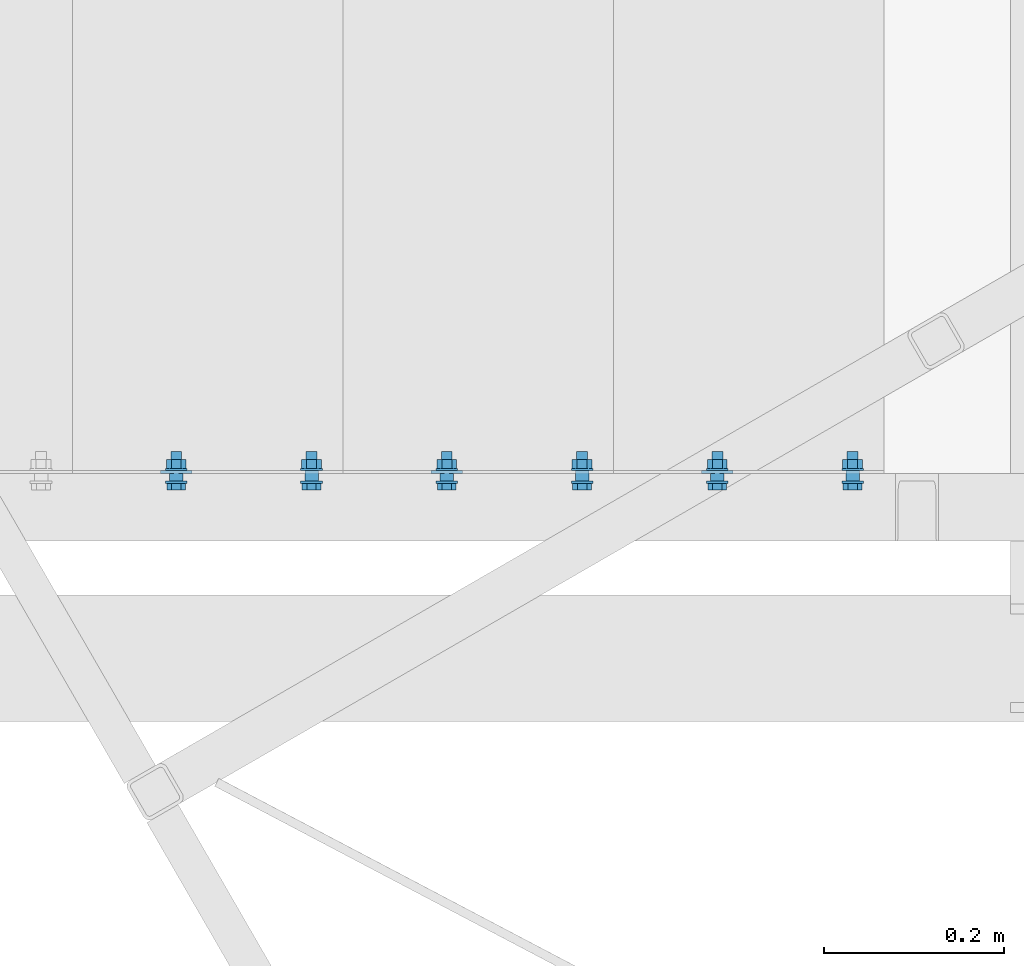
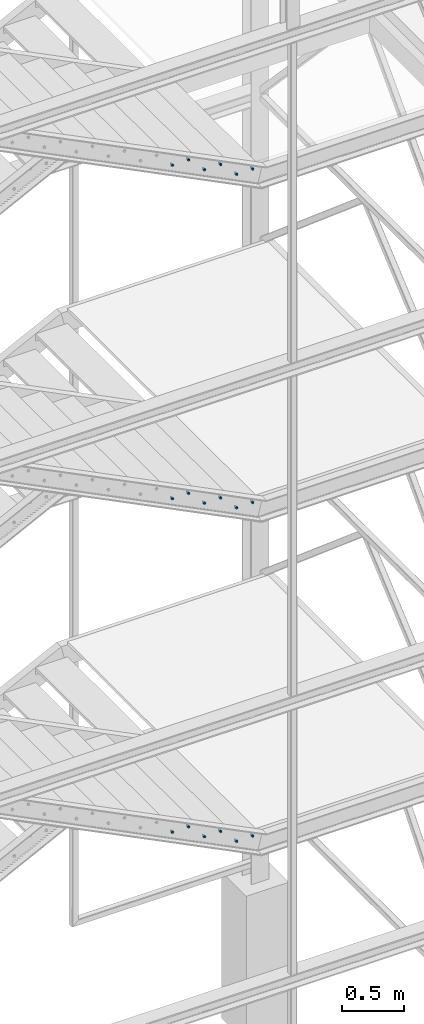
# One storey, part 107 of 132: 18 mechanical fasteners, 9 elements without a shape of their own.
"""IFC2X3 building model written with IfcOpenShell, lengths in millimetres."""

from ifc_helpers import new_model, si_unit, frame, frame_2d, origin_with_axes, origin_2d_with_axis, place, context, subcontext, project, spatial, polyline, circle_curve, parameter, trimmed, segment, composite_curve, circle, outline, extrude, source, transform, mapped, material, type_object, element, aggregate, save


model = new_model("IFC2X3")

# Units and contexts
model_context = context("Model", 3, precision=1e-05, world=origin_with_axes())
body_context = subcontext(model_context, "Body", "Model", "MODEL_VIEW")
ifc_project = project(units=[si_unit("LENGTHUNIT", "METRE", prefix="MILLI"), si_unit("AREAUNIT", "SQUARE_METRE"), si_unit("VOLUMEUNIT", "CUBIC_METRE"), si_unit("MASSUNIT", "GRAM", prefix="KILO"), si_unit("TIMEUNIT", "SECOND"), si_unit("PLANEANGLEUNIT", "RADIAN"), si_unit("SOLIDANGLEUNIT", "STERADIAN"), si_unit("THERMODYNAMICTEMPERATUREUNIT", "DEGREE_CELSIUS"), si_unit("LUMINOUSINTENSITYUNIT", "LUMEN")], contexts=[model_context])

# Site, building, storey
site_placement = place(None, origin_with_axes())
site = spatial("IfcSite", under=ifc_project, at=site_placement, Name="Budowa", CompositionType="ELEMENT")
building_placement = place(site_placement, origin_with_axes())
building = spatial("IfcBuilding", under=site, at=building_placement, Name="Undefined", CompositionType="ELEMENT")
storey_placement = place(building_placement, origin_with_axes())
storey = spatial("IfcBuildingStorey", under=building, at=storey_placement, Name="Undefined", CompositionType="ELEMENT", Elevation=0.0)

# Assembly, mechanical fastener
assembly_1_placement = place(storey_placement, origin_with_axes())
assembly_1 = element("IfcElementAssembly", 1, at=assembly_1_placement, inside=storey, Name="Steel Assembly", AssemblyPlace="NOTDEFINED", PredefinedType="RIGID_FRAME")
ifc_material = material(Name="Undefined")
discrete_accessory_type = type_object("IfcDiscreteAccessoryType", Name="Bolt assembly")
shared_shape_1 = source(origin_with_axes(), body_context, "Body", "SweptSolid", [
    extrude(circle(Radius=7.5, at=origin_2d_with_axis()), frame((0.0, -8.40000000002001, 0.0), z_axis=(0.0, 1.0, 0.0), x_axis=(1.0, 0.0, 0.0)), (0.0, 0.0, 1.0), 8.5),
    extrude(circle(Radius=7.5, at=origin_2d_with_axis()), frame((0.0, -0.1, 0.0), z_axis=(0.0, 1.0, 0.0), x_axis=(1.0, 0.0, 0.0)), (0.0, 0.0, 1.0), 3.1),
    extrude(outline(polyline([(10.39230484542, 0.0), (5.19615242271, 9.00000000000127), (-5.19615242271, 9.00000000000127), (-10.39230484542, 0.0), (-5.19615242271, -9.00000000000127), (5.19615242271, -9.00000000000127), (10.39230484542, 0.0)])), frame((0.0, -18.50000000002, 0.0), z_axis=(0.0, 1.0, 0.0), x_axis=(1.0, 0.0, 0.0)), (0.0, 0.0, 1.0), 7.5),
    extrude(circle(Radius=6.0, at=origin_2d_with_axis()), frame((0.0, -11.00000000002, 0.0), z_axis=(0.0, 1.0, 0.0), x_axis=(1.0, 0.0, 0.0)), (0.0, 0.0, 1.0), 35.0),
    extrude(circle(Radius=12.0, at=origin_2d_with_axis()), frame((0.0, -11.00000000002, 0.0), z_axis=(0.0, 1.0, 0.0), x_axis=(1.0, 0.0, 0.0)), (0.0, 0.0, 1.0), 2.5),
    extrude(circle(Radius=12.0, at=origin_2d_with_axis()), frame((0.0, 3.0, 0.0), z_axis=(0.0, 1.0, 0.0), x_axis=(1.0, 0.0, 0.0)), (0.0, 0.0, 1.0), 2.5),
    extrude(outline(polyline([(10.96965511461, 0.0), (5.484827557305, 9.50000000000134), (-5.484827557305, 9.50000000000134), (-10.96965511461, 0.0), (-5.484827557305, -9.50000000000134), (5.484827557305, -9.50000000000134), (10.96965511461, 0.0)])), frame((0.0, 5.5, 0.0), z_axis=(0.0, 1.0, 0.0), x_axis=(1.0, 0.0, 0.0)), (0.0, 0.0, 1.0), 10.0),
])
mechanical_fastener_1_placement = place(assembly_1_placement, frame((-1420.00000007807, 7875.00000004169, 11000.0000000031), z_axis=(0.0, 0.0, -1.0), x_axis=(-1.0, 0.0, 0.0)))
mechanical_fastener_1 = element("IfcMechanicalFastener", 2, at=mechanical_fastener_1_placement, type_object=discrete_accessory_type, material=ifc_material, Name="Bolt assembly", NominalDiameter=12.0, NominalLength=35.0, context=body_context, shape_type="MappedRepresentation", body=[
    mapped(shared_shape_1, transform((35.0, 0.0, 25.0))),
])

assembly_2_placement = place(storey_placement, origin_with_axes())
assembly_2 = element("IfcElementAssembly", 3, at=assembly_2_placement, inside=storey, Name="Steel Assembly", AssemblyPlace="NOTDEFINED", PredefinedType="RIGID_FRAME")
mechanical_fastener_2_placement = place(assembly_2_placement, frame((-1120.00000007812, 7875.00000004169, 10850.0000000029), z_axis=(0.0, 0.0, -1.0), x_axis=(-1.0, 0.0, 0.0)))
mechanical_fastener_2 = element("IfcMechanicalFastener", 4, at=mechanical_fastener_2_placement, type_object=discrete_accessory_type, material=ifc_material, Name="Bolt assembly", NominalDiameter=12.0, NominalLength=35.0, context=body_context, shape_type="MappedRepresentation", body=[
    mapped(shared_shape_1, transform((35.0, 0.0, 25.0))),
])

assembly_3_placement = place(storey_placement, origin_with_axes())
assembly_3 = element("IfcElementAssembly", 5, at=assembly_3_placement, inside=storey, Name="Steel Assembly", AssemblyPlace="NOTDEFINED", PredefinedType="RIGID_FRAME")
mechanical_fastener_3_placement = place(assembly_3_placement, frame((-820.000000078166, 7875.00000004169, 10700.0000000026), z_axis=(0.0, 0.0, -1.0), x_axis=(-1.0, 0.0, 0.0)))
mechanical_fastener_3 = element("IfcMechanicalFastener", 6, at=mechanical_fastener_3_placement, type_object=discrete_accessory_type, material=ifc_material, Name="Bolt assembly", NominalDiameter=12.0, NominalLength=35.0, context=body_context, shape_type="MappedRepresentation", body=[
    mapped(shared_shape_1, transform((35.0, 0.0, 25.0))),
])

assembly_4_placement = place(storey_placement, origin_with_axes())
assembly_4 = element("IfcElementAssembly", 7, at=assembly_4_placement, inside=storey, Name="Steel Assembly", AssemblyPlace="NOTDEFINED", PredefinedType="RIGID_FRAME")
mechanical_fastener_4_placement = place(assembly_4_placement, frame((-1420.00000007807, 7875.00000004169, 7700.00000000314), z_axis=(0.0, 0.0, -1.0), x_axis=(-1.0, 0.0, 0.0)))
mechanical_fastener_4 = element("IfcMechanicalFastener", 8, at=mechanical_fastener_4_placement, type_object=discrete_accessory_type, material=ifc_material, Name="Bolt assembly", NominalDiameter=12.0, NominalLength=35.0, context=body_context, shape_type="MappedRepresentation", body=[
    mapped(shared_shape_1, transform((35.0, 0.0, 25.0))),
])

assembly_5_placement = place(storey_placement, origin_with_axes())
assembly_5 = element("IfcElementAssembly", 9, at=assembly_5_placement, inside=storey, Name="Steel Assembly", AssemblyPlace="NOTDEFINED", PredefinedType="RIGID_FRAME")
mechanical_fastener_5_placement = place(assembly_5_placement, frame((-1120.00000007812, 7875.00000004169, 7550.00000000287), z_axis=(0.0, 0.0, -1.0), x_axis=(-1.0, 0.0, 0.0)))
mechanical_fastener_5 = element("IfcMechanicalFastener", 10, at=mechanical_fastener_5_placement, type_object=discrete_accessory_type, material=ifc_material, Name="Bolt assembly", NominalDiameter=12.0, NominalLength=35.0, context=body_context, shape_type="MappedRepresentation", body=[
    mapped(shared_shape_1, transform((35.0, 0.0, 25.0))),
])

assembly_6_placement = place(storey_placement, origin_with_axes())
assembly_6 = element("IfcElementAssembly", 11, at=assembly_6_placement, inside=storey, Name="Steel Assembly", AssemblyPlace="NOTDEFINED", PredefinedType="RIGID_FRAME")
mechanical_fastener_6_placement = place(assembly_6_placement, frame((-820.000000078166, 7875.00000004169, 7400.00000000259), z_axis=(0.0, 0.0, -1.0), x_axis=(-1.0, 0.0, 0.0)))
mechanical_fastener_6 = element("IfcMechanicalFastener", 12, at=mechanical_fastener_6_placement, type_object=discrete_accessory_type, material=ifc_material, Name="Bolt assembly", NominalDiameter=12.0, NominalLength=35.0, context=body_context, shape_type="MappedRepresentation", body=[
    mapped(shared_shape_1, transform((35.0, 0.0, 25.0))),
])

assembly_7_placement = place(storey_placement, origin_with_axes())
assembly_7 = element("IfcElementAssembly", 13, at=assembly_7_placement, inside=storey, Name="Steel Assembly", AssemblyPlace="NOTDEFINED", PredefinedType="RIGID_FRAME")
mechanical_fastener_7_placement = place(assembly_7_placement, frame((-1420.00000007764, 7875.00000004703, 4399.99999999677), z_axis=(0.0, 0.0, -1.0), x_axis=(-1.0, 0.0, 0.0)))
mechanical_fastener_7 = element("IfcMechanicalFastener", 14, at=mechanical_fastener_7_placement, type_object=discrete_accessory_type, material=ifc_material, Name="Bolt assembly", NominalDiameter=12.0, NominalLength=35.0, context=body_context, shape_type="MappedRepresentation", body=[
    mapped(shared_shape_1, transform((35.0, 0.0, 25.0))),
])

assembly_8_placement = place(storey_placement, origin_with_axes())
assembly_8 = element("IfcElementAssembly", 15, at=assembly_8_placement, inside=storey, Name="Steel Assembly", AssemblyPlace="NOTDEFINED", PredefinedType="RIGID_FRAME")
mechanical_fastener_8_placement = place(assembly_8_placement, frame((-1120.00000007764, 7875.00000004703, 4249.99999999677), z_axis=(0.0, 0.0, -1.0), x_axis=(-1.0, 0.0, 0.0)))
mechanical_fastener_8 = element("IfcMechanicalFastener", 16, at=mechanical_fastener_8_placement, type_object=discrete_accessory_type, material=ifc_material, Name="Bolt assembly", NominalDiameter=12.0, NominalLength=35.0, context=body_context, shape_type="MappedRepresentation", body=[
    mapped(shared_shape_1, transform((35.0, 0.0, 25.0))),
])

assembly_9_placement = place(storey_placement, origin_with_axes())
assembly_9 = element("IfcElementAssembly", 17, at=assembly_9_placement, inside=storey, Name="Steel Assembly", AssemblyPlace="NOTDEFINED", PredefinedType="RIGID_FRAME")
mechanical_fastener_9_placement = place(assembly_9_placement, frame((-820.000000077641, 7875.00000004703, 4099.99999999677), z_axis=(0.0, 0.0, -1.0), x_axis=(-1.0, 0.0, 0.0)))
mechanical_fastener_9 = element("IfcMechanicalFastener", 18, at=mechanical_fastener_9_placement, type_object=discrete_accessory_type, material=ifc_material, Name="Bolt assembly", NominalDiameter=12.0, NominalLength=35.0, context=body_context, shape_type="MappedRepresentation", body=[
    mapped(shared_shape_1, transform((35.0, 0.0, 25.0))),
])

# Mechanical fastener
shared_shape_2 = source(origin_with_axes(), body_context, "Body", "SweptSolid", [
    extrude(circle(Radius=7.5, at=origin_2d_with_axis()), frame((0.0, -8.40000000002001, 0.0), z_axis=(0.0, 1.0, 0.0), x_axis=(1.0, 0.0, 0.0)), (0.0, 0.0, 1.0), 8.5),
    extrude(outline(composite_curve([segment(polyline([(-10.0, 7.5), (10.0, 7.5)]), True, "CONTINUOUS"), segment(trimmed(circle_curve(frame_2d((10.0, 0.0), x_axis=(0.0, 1.0)), 7.5), [parameter(0.0)], [parameter(3.14159265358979)], False, "PARAMETER"), True, "CONTINUOUS"), segment(polyline([(10.0, -7.5), (-10.0, -7.5)]), True, "CONTINUOUS"), segment(trimmed(circle_curve(frame_2d((-10.0, 0.0), x_axis=(0.0, -1.0)), 7.5), [parameter(0.0)], [parameter(3.14159265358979)], False, "PARAMETER"), True, "DISCONTINUOUS")], self_intersect=False)), frame((0.0, -0.1, 0.0), z_axis=(0.0, 1.0, 0.0), x_axis=(1.0, 0.0, 0.0)), (0.0, 0.0, 1.0), 3.1),
    extrude(outline(polyline([(10.39230484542, 0.0), (5.19615242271, 9.00000000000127), (-5.19615242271, 9.00000000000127), (-10.39230484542, 0.0), (-5.19615242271, -9.00000000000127), (5.19615242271, -9.00000000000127), (10.39230484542, 0.0)])), frame((0.0, -18.50000000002, 0.0), z_axis=(0.0, 1.0, 0.0), x_axis=(1.0, 0.0, 0.0)), (0.0, 0.0, 1.0), 7.5),
    extrude(circle(Radius=6.0, at=origin_2d_with_axis()), frame((0.0, -11.00000000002, 0.0), z_axis=(0.0, 1.0, 0.0), x_axis=(1.0, 0.0, 0.0)), (0.0, 0.0, 1.0), 35.0),
    extrude(circle(Radius=12.0, at=origin_2d_with_axis()), frame((0.0, -11.00000000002, 0.0), z_axis=(0.0, 1.0, 0.0), x_axis=(1.0, 0.0, 0.0)), (0.0, 0.0, 1.0), 2.5),
    extrude(circle(Radius=12.0, at=origin_2d_with_axis()), frame((0.0, 3.0, 0.0), z_axis=(0.0, 1.0, 0.0), x_axis=(1.0, 0.0, 0.0)), (0.0, 0.0, 1.0), 2.5),
    extrude(outline(polyline([(10.96965511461, 0.0), (5.484827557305, 9.50000000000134), (-5.484827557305, 9.50000000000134), (-10.96965511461, 0.0), (-5.484827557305, -9.50000000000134), (5.484827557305, -9.50000000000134), (10.96965511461, 0.0)])), frame((0.0, 5.5, 0.0), z_axis=(0.0, 1.0, 0.0), x_axis=(1.0, 0.0, 0.0)), (0.0, 0.0, 1.0), 10.0),
])
mechanical_fastener_10_placement = place(assembly_1_placement, frame((-1420.00000007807, 7875.00000004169, 11000.0000000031), z_axis=(0.0, 0.0, -1.0), x_axis=(-1.0, 0.0, 0.0)))
mechanical_fastener_10 = element("IfcMechanicalFastener", 19, at=mechanical_fastener_10_placement, type_object=discrete_accessory_type, material=ifc_material, Name="Bolt assembly", NominalDiameter=12.0, NominalLength=35.0, context=body_context, shape_type="MappedRepresentation", body=[
    mapped(shared_shape_2, transform((185.0, 0.0, 25.0))),
])

aggregate(assembly_1, [mechanical_fastener_10, mechanical_fastener_1])

shared_shape_3 = source(origin_with_axes(), body_context, "Body", "SweptSolid", [
    extrude(circle(Radius=7.5, at=origin_2d_with_axis()), frame((0.0, -8.40000000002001, 0.0), z_axis=(0.0, 1.0, 0.0), x_axis=(1.0, 0.0, 0.0)), (0.0, 0.0, 1.0), 8.5),
    extrude(outline(composite_curve([segment(polyline([(-10.0, 7.5), (10.0, 7.5)]), True, "CONTINUOUS"), segment(trimmed(circle_curve(frame_2d((10.0, 0.0), x_axis=(0.0, 1.0)), 7.5), [parameter(0.0)], [parameter(3.14159265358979)], False, "PARAMETER"), True, "CONTINUOUS"), segment(polyline([(10.0, -7.5), (-10.0, -7.5)]), True, "CONTINUOUS"), segment(trimmed(circle_curve(frame_2d((-10.0, 0.0), x_axis=(0.0, -1.0)), 7.5), [parameter(0.0)], [parameter(3.14159265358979)], False, "PARAMETER"), True, "DISCONTINUOUS")], self_intersect=False)), frame((0.0, -0.1, 0.0), z_axis=(0.0, 1.0, 0.0), x_axis=(1.0, 0.0, 0.0)), (0.0, 0.0, 1.0), 3.1),
    extrude(outline(polyline([(10.39230484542, 0.0), (5.19615242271, 9.00000000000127), (-5.19615242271, 9.00000000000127), (-10.39230484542, 0.0), (-5.19615242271, -9.00000000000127), (5.19615242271, -9.00000000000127), (10.39230484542, 0.0)])), frame((0.0, -18.50000000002, 0.0), z_axis=(0.0, 1.0, 0.0), x_axis=(1.0, 0.0, 0.0)), (0.0, 0.0, 1.0), 7.5),
    extrude(circle(Radius=6.0, at=origin_2d_with_axis()), frame((0.0, -11.00000000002, 0.0), z_axis=(0.0, 1.0, 0.0), x_axis=(1.0, 0.0, 0.0)), (0.0, 0.0, 1.0), 35.0),
    extrude(circle(Radius=12.0, at=origin_2d_with_axis()), frame((0.0, -11.00000000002, 0.0), z_axis=(0.0, 1.0, 0.0), x_axis=(1.0, 0.0, 0.0)), (0.0, 0.0, 1.0), 2.5),
    extrude(circle(Radius=12.0, at=origin_2d_with_axis()), frame((0.0, 3.0, 0.0), z_axis=(0.0, 1.0, 0.0), x_axis=(1.0, 0.0, 0.0)), (0.0, 0.0, 1.0), 2.5),
    extrude(outline(polyline([(10.96965511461, 0.0), (5.484827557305, 9.50000000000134), (-5.484827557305, 9.50000000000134), (-10.96965511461, 0.0), (-5.484827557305, -9.50000000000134), (5.484827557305, -9.50000000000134), (10.96965511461, 0.0)])), frame((0.0, 5.5, 0.0), z_axis=(0.0, 1.0, 0.0), x_axis=(1.0, 0.0, 0.0)), (0.0, 0.0, 1.0), 10.0),
])
mechanical_fastener_11_placement = place(assembly_2_placement, frame((-1120.00000007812, 7875.00000004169, 10850.0000000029), z_axis=(0.0, 0.0, -1.0), x_axis=(-1.0, 0.0, 0.0)))
mechanical_fastener_11 = element("IfcMechanicalFastener", 20, at=mechanical_fastener_11_placement, type_object=discrete_accessory_type, material=ifc_material, Name="Bolt assembly", NominalDiameter=12.0, NominalLength=35.0, context=body_context, shape_type="MappedRepresentation", body=[
    mapped(shared_shape_3, transform((185.0, 0.0, 25.0))),
])

aggregate(assembly_2, [mechanical_fastener_11, mechanical_fastener_2])

shared_shape_4 = source(origin_with_axes(), body_context, "Body", "SweptSolid", [
    extrude(circle(Radius=7.5, at=origin_2d_with_axis()), frame((0.0, -8.40000000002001, 0.0), z_axis=(0.0, 1.0, 0.0), x_axis=(1.0, 0.0, 0.0)), (0.0, 0.0, 1.0), 8.5),
    extrude(outline(composite_curve([segment(polyline([(-10.0, 7.5), (10.0, 7.5)]), True, "CONTINUOUS"), segment(trimmed(circle_curve(frame_2d((10.0, 0.0), x_axis=(0.0, 1.0)), 7.5), [parameter(0.0)], [parameter(3.14159265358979)], False, "PARAMETER"), True, "CONTINUOUS"), segment(polyline([(10.0, -7.5), (-10.0, -7.5)]), True, "CONTINUOUS"), segment(trimmed(circle_curve(frame_2d((-10.0, 0.0), x_axis=(0.0, -1.0)), 7.5), [parameter(0.0)], [parameter(3.14159265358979)], False, "PARAMETER"), True, "DISCONTINUOUS")], self_intersect=False)), frame((0.0, -0.1, 0.0), z_axis=(0.0, 1.0, 0.0), x_axis=(1.0, 0.0, 0.0)), (0.0, 0.0, 1.0), 3.1),
    extrude(outline(polyline([(10.39230484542, 0.0), (5.19615242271, 9.00000000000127), (-5.19615242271, 9.00000000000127), (-10.39230484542, 0.0), (-5.19615242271, -9.00000000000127), (5.19615242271, -9.00000000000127), (10.39230484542, 0.0)])), frame((0.0, -18.50000000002, 0.0), z_axis=(0.0, 1.0, 0.0), x_axis=(1.0, 0.0, 0.0)), (0.0, 0.0, 1.0), 7.5),
    extrude(circle(Radius=6.0, at=origin_2d_with_axis()), frame((0.0, -11.00000000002, 0.0), z_axis=(0.0, 1.0, 0.0), x_axis=(1.0, 0.0, 0.0)), (0.0, 0.0, 1.0), 35.0),
    extrude(circle(Radius=12.0, at=origin_2d_with_axis()), frame((0.0, -11.00000000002, 0.0), z_axis=(0.0, 1.0, 0.0), x_axis=(1.0, 0.0, 0.0)), (0.0, 0.0, 1.0), 2.5),
    extrude(circle(Radius=12.0, at=origin_2d_with_axis()), frame((0.0, 3.0, 0.0), z_axis=(0.0, 1.0, 0.0), x_axis=(1.0, 0.0, 0.0)), (0.0, 0.0, 1.0), 2.5),
    extrude(outline(polyline([(10.96965511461, 0.0), (5.484827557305, 9.50000000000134), (-5.484827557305, 9.50000000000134), (-10.96965511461, 0.0), (-5.484827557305, -9.50000000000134), (5.484827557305, -9.50000000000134), (10.96965511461, 0.0)])), frame((0.0, 5.5, 0.0), z_axis=(0.0, 1.0, 0.0), x_axis=(1.0, 0.0, 0.0)), (0.0, 0.0, 1.0), 10.0),
])
mechanical_fastener_12_placement = place(assembly_3_placement, frame((-820.000000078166, 7875.00000004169, 10700.0000000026), z_axis=(0.0, 0.0, -1.0), x_axis=(-1.0, 0.0, 0.0)))
mechanical_fastener_12 = element("IfcMechanicalFastener", 21, at=mechanical_fastener_12_placement, type_object=discrete_accessory_type, material=ifc_material, Name="Bolt assembly", NominalDiameter=12.0, NominalLength=35.0, context=body_context, shape_type="MappedRepresentation", body=[
    mapped(shared_shape_4, transform((185.0, 0.0, 25.0))),
])

aggregate(assembly_3, [mechanical_fastener_12, mechanical_fastener_3])

shared_shape_5 = source(origin_with_axes(), body_context, "Body", "SweptSolid", [
    extrude(circle(Radius=7.5, at=origin_2d_with_axis()), frame((0.0, -8.40000000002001, 0.0), z_axis=(0.0, 1.0, 0.0), x_axis=(1.0, 0.0, 0.0)), (0.0, 0.0, 1.0), 8.5),
    extrude(outline(composite_curve([segment(polyline([(-10.0, 7.5), (10.0, 7.5)]), True, "CONTINUOUS"), segment(trimmed(circle_curve(frame_2d((10.0, 0.0), x_axis=(0.0, 1.0)), 7.5), [parameter(0.0)], [parameter(3.14159265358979)], False, "PARAMETER"), True, "CONTINUOUS"), segment(polyline([(10.0, -7.5), (-10.0, -7.5)]), True, "CONTINUOUS"), segment(trimmed(circle_curve(frame_2d((-10.0, 0.0), x_axis=(0.0, -1.0)), 7.5), [parameter(0.0)], [parameter(3.14159265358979)], False, "PARAMETER"), True, "DISCONTINUOUS")], self_intersect=False)), frame((0.0, -0.1, 0.0), z_axis=(0.0, 1.0, 0.0), x_axis=(1.0, 0.0, 0.0)), (0.0, 0.0, 1.0), 3.1),
    extrude(outline(polyline([(10.39230484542, 0.0), (5.19615242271, 9.00000000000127), (-5.19615242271, 9.00000000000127), (-10.39230484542, 0.0), (-5.19615242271, -9.00000000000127), (5.19615242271, -9.00000000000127), (10.39230484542, 0.0)])), frame((0.0, -18.50000000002, 0.0), z_axis=(0.0, 1.0, 0.0), x_axis=(1.0, 0.0, 0.0)), (0.0, 0.0, 1.0), 7.5),
    extrude(circle(Radius=6.0, at=origin_2d_with_axis()), frame((0.0, -11.00000000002, 0.0), z_axis=(0.0, 1.0, 0.0), x_axis=(1.0, 0.0, 0.0)), (0.0, 0.0, 1.0), 35.0),
    extrude(circle(Radius=12.0, at=origin_2d_with_axis()), frame((0.0, -11.00000000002, 0.0), z_axis=(0.0, 1.0, 0.0), x_axis=(1.0, 0.0, 0.0)), (0.0, 0.0, 1.0), 2.5),
    extrude(circle(Radius=12.0, at=origin_2d_with_axis()), frame((0.0, 3.0, 0.0), z_axis=(0.0, 1.0, 0.0), x_axis=(1.0, 0.0, 0.0)), (0.0, 0.0, 1.0), 2.5),
    extrude(outline(polyline([(10.96965511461, 0.0), (5.484827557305, 9.50000000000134), (-5.484827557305, 9.50000000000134), (-10.96965511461, 0.0), (-5.484827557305, -9.50000000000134), (5.484827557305, -9.50000000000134), (10.96965511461, 0.0)])), frame((0.0, 5.5, 0.0), z_axis=(0.0, 1.0, 0.0), x_axis=(1.0, 0.0, 0.0)), (0.0, 0.0, 1.0), 10.0),
])
mechanical_fastener_13_placement = place(assembly_4_placement, frame((-1420.00000007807, 7875.00000004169, 7700.00000000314), z_axis=(0.0, 0.0, -1.0), x_axis=(-1.0, 0.0, 0.0)))
mechanical_fastener_13 = element("IfcMechanicalFastener", 22, at=mechanical_fastener_13_placement, type_object=discrete_accessory_type, material=ifc_material, Name="Bolt assembly", NominalDiameter=12.0, NominalLength=35.0, context=body_context, shape_type="MappedRepresentation", body=[
    mapped(shared_shape_5, transform((185.0, 0.0, 25.0))),
])

aggregate(assembly_4, [mechanical_fastener_13, mechanical_fastener_4])

shared_shape_6 = source(origin_with_axes(), body_context, "Body", "SweptSolid", [
    extrude(circle(Radius=7.5, at=origin_2d_with_axis()), frame((0.0, -8.40000000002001, 0.0), z_axis=(0.0, 1.0, 0.0), x_axis=(1.0, 0.0, 0.0)), (0.0, 0.0, 1.0), 8.5),
    extrude(outline(composite_curve([segment(polyline([(-10.0, 7.5), (10.0, 7.5)]), True, "CONTINUOUS"), segment(trimmed(circle_curve(frame_2d((10.0, 0.0), x_axis=(0.0, 1.0)), 7.5), [parameter(0.0)], [parameter(3.14159265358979)], False, "PARAMETER"), True, "CONTINUOUS"), segment(polyline([(10.0, -7.5), (-10.0, -7.5)]), True, "CONTINUOUS"), segment(trimmed(circle_curve(frame_2d((-10.0, 0.0), x_axis=(0.0, -1.0)), 7.5), [parameter(0.0)], [parameter(3.14159265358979)], False, "PARAMETER"), True, "DISCONTINUOUS")], self_intersect=False)), frame((0.0, -0.1, 0.0), z_axis=(0.0, 1.0, 0.0), x_axis=(1.0, 0.0, 0.0)), (0.0, 0.0, 1.0), 3.1),
    extrude(outline(polyline([(10.39230484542, 0.0), (5.19615242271, 9.00000000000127), (-5.19615242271, 9.00000000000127), (-10.39230484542, 0.0), (-5.19615242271, -9.00000000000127), (5.19615242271, -9.00000000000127), (10.39230484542, 0.0)])), frame((0.0, -18.50000000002, 0.0), z_axis=(0.0, 1.0, 0.0), x_axis=(1.0, 0.0, 0.0)), (0.0, 0.0, 1.0), 7.5),
    extrude(circle(Radius=6.0, at=origin_2d_with_axis()), frame((0.0, -11.00000000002, 0.0), z_axis=(0.0, 1.0, 0.0), x_axis=(1.0, 0.0, 0.0)), (0.0, 0.0, 1.0), 35.0),
    extrude(circle(Radius=12.0, at=origin_2d_with_axis()), frame((0.0, -11.00000000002, 0.0), z_axis=(0.0, 1.0, 0.0), x_axis=(1.0, 0.0, 0.0)), (0.0, 0.0, 1.0), 2.5),
    extrude(circle(Radius=12.0, at=origin_2d_with_axis()), frame((0.0, 3.0, 0.0), z_axis=(0.0, 1.0, 0.0), x_axis=(1.0, 0.0, 0.0)), (0.0, 0.0, 1.0), 2.5),
    extrude(outline(polyline([(10.96965511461, 0.0), (5.484827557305, 9.50000000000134), (-5.484827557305, 9.50000000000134), (-10.96965511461, 0.0), (-5.484827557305, -9.50000000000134), (5.484827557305, -9.50000000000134), (10.96965511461, 0.0)])), frame((0.0, 5.5, 0.0), z_axis=(0.0, 1.0, 0.0), x_axis=(1.0, 0.0, 0.0)), (0.0, 0.0, 1.0), 10.0),
])
mechanical_fastener_14_placement = place(assembly_5_placement, frame((-1120.00000007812, 7875.00000004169, 7550.00000000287), z_axis=(0.0, 0.0, -1.0), x_axis=(-1.0, 0.0, 0.0)))
mechanical_fastener_14 = element("IfcMechanicalFastener", 23, at=mechanical_fastener_14_placement, type_object=discrete_accessory_type, material=ifc_material, Name="Bolt assembly", NominalDiameter=12.0, NominalLength=35.0, context=body_context, shape_type="MappedRepresentation", body=[
    mapped(shared_shape_6, transform((185.0, 0.0, 25.0))),
])

aggregate(assembly_5, [mechanical_fastener_14, mechanical_fastener_5])

shared_shape_7 = source(origin_with_axes(), body_context, "Body", "SweptSolid", [
    extrude(circle(Radius=7.5, at=origin_2d_with_axis()), frame((0.0, -8.40000000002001, 0.0), z_axis=(0.0, 1.0, 0.0), x_axis=(1.0, 0.0, 0.0)), (0.0, 0.0, 1.0), 8.5),
    extrude(outline(composite_curve([segment(polyline([(-10.0, 7.5), (10.0, 7.5)]), True, "CONTINUOUS"), segment(trimmed(circle_curve(frame_2d((10.0, 0.0), x_axis=(0.0, 1.0)), 7.5), [parameter(0.0)], [parameter(3.14159265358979)], False, "PARAMETER"), True, "CONTINUOUS"), segment(polyline([(10.0, -7.5), (-10.0, -7.5)]), True, "CONTINUOUS"), segment(trimmed(circle_curve(frame_2d((-10.0, 0.0), x_axis=(0.0, -1.0)), 7.5), [parameter(0.0)], [parameter(3.14159265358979)], False, "PARAMETER"), True, "DISCONTINUOUS")], self_intersect=False)), frame((0.0, -0.1, 0.0), z_axis=(0.0, 1.0, 0.0), x_axis=(1.0, 0.0, 0.0)), (0.0, 0.0, 1.0), 3.1),
    extrude(outline(polyline([(10.39230484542, 0.0), (5.19615242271, 9.00000000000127), (-5.19615242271, 9.00000000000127), (-10.39230484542, 0.0), (-5.19615242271, -9.00000000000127), (5.19615242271, -9.00000000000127), (10.39230484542, 0.0)])), frame((0.0, -18.50000000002, 0.0), z_axis=(0.0, 1.0, 0.0), x_axis=(1.0, 0.0, 0.0)), (0.0, 0.0, 1.0), 7.5),
    extrude(circle(Radius=6.0, at=origin_2d_with_axis()), frame((0.0, -11.00000000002, 0.0), z_axis=(0.0, 1.0, 0.0), x_axis=(1.0, 0.0, 0.0)), (0.0, 0.0, 1.0), 35.0),
    extrude(circle(Radius=12.0, at=origin_2d_with_axis()), frame((0.0, -11.00000000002, 0.0), z_axis=(0.0, 1.0, 0.0), x_axis=(1.0, 0.0, 0.0)), (0.0, 0.0, 1.0), 2.5),
    extrude(circle(Radius=12.0, at=origin_2d_with_axis()), frame((0.0, 3.0, 0.0), z_axis=(0.0, 1.0, 0.0), x_axis=(1.0, 0.0, 0.0)), (0.0, 0.0, 1.0), 2.5),
    extrude(outline(polyline([(10.96965511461, 0.0), (5.484827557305, 9.50000000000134), (-5.484827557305, 9.50000000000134), (-10.96965511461, 0.0), (-5.484827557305, -9.50000000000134), (5.484827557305, -9.50000000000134), (10.96965511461, 0.0)])), frame((0.0, 5.5, 0.0), z_axis=(0.0, 1.0, 0.0), x_axis=(1.0, 0.0, 0.0)), (0.0, 0.0, 1.0), 10.0),
])
mechanical_fastener_15_placement = place(assembly_6_placement, frame((-820.000000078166, 7875.00000004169, 7400.00000000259), z_axis=(0.0, 0.0, -1.0), x_axis=(-1.0, 0.0, 0.0)))
mechanical_fastener_15 = element("IfcMechanicalFastener", 24, at=mechanical_fastener_15_placement, type_object=discrete_accessory_type, material=ifc_material, Name="Bolt assembly", NominalDiameter=12.0, NominalLength=35.0, context=body_context, shape_type="MappedRepresentation", body=[
    mapped(shared_shape_7, transform((185.0, 0.0, 25.0))),
])

aggregate(assembly_6, [mechanical_fastener_15, mechanical_fastener_6])

shared_shape_8 = source(origin_with_axes(), body_context, "Body", "SweptSolid", [
    extrude(circle(Radius=7.5, at=origin_2d_with_axis()), frame((0.0, -8.40000000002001, 0.0), z_axis=(0.0, 1.0, 0.0), x_axis=(1.0, 0.0, 0.0)), (0.0, 0.0, 1.0), 8.5),
    extrude(outline(composite_curve([segment(polyline([(-10.0, 7.5), (10.0, 7.5)]), True, "CONTINUOUS"), segment(trimmed(circle_curve(frame_2d((10.0, 0.0), x_axis=(0.0, 1.0)), 7.5), [parameter(0.0)], [parameter(3.14159265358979)], False, "PARAMETER"), True, "CONTINUOUS"), segment(polyline([(10.0, -7.5), (-10.0, -7.5)]), True, "CONTINUOUS"), segment(trimmed(circle_curve(frame_2d((-10.0, 0.0), x_axis=(0.0, -1.0)), 7.5), [parameter(0.0)], [parameter(3.14159265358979)], False, "PARAMETER"), True, "DISCONTINUOUS")], self_intersect=False)), frame((0.0, -0.1, 0.0), z_axis=(0.0, 1.0, 0.0), x_axis=(1.0, 0.0, 0.0)), (0.0, 0.0, 1.0), 3.1),
    extrude(outline(polyline([(10.39230484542, 0.0), (5.19615242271, 9.00000000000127), (-5.19615242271, 9.00000000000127), (-10.39230484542, 0.0), (-5.19615242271, -9.00000000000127), (5.19615242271, -9.00000000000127), (10.39230484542, 0.0)])), frame((0.0, -18.50000000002, 0.0), z_axis=(0.0, 1.0, 0.0), x_axis=(1.0, 0.0, 0.0)), (0.0, 0.0, 1.0), 7.5),
    extrude(circle(Radius=6.0, at=origin_2d_with_axis()), frame((0.0, -11.00000000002, 0.0), z_axis=(0.0, 1.0, 0.0), x_axis=(1.0, 0.0, 0.0)), (0.0, 0.0, 1.0), 35.0),
    extrude(circle(Radius=12.0, at=origin_2d_with_axis()), frame((0.0, -11.00000000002, 0.0), z_axis=(0.0, 1.0, 0.0), x_axis=(1.0, 0.0, 0.0)), (0.0, 0.0, 1.0), 2.5),
    extrude(circle(Radius=12.0, at=origin_2d_with_axis()), frame((0.0, 3.0, 0.0), z_axis=(0.0, 1.0, 0.0), x_axis=(1.0, 0.0, 0.0)), (0.0, 0.0, 1.0), 2.5),
    extrude(outline(polyline([(10.96965511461, 0.0), (5.484827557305, 9.50000000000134), (-5.484827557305, 9.50000000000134), (-10.96965511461, 0.0), (-5.484827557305, -9.50000000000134), (5.484827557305, -9.50000000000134), (10.96965511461, 0.0)])), frame((0.0, 5.5, 0.0), z_axis=(0.0, 1.0, 0.0), x_axis=(1.0, 0.0, 0.0)), (0.0, 0.0, 1.0), 10.0),
])
mechanical_fastener_16_placement = place(assembly_7_placement, frame((-1420.00000007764, 7875.00000004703, 4399.99999999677), z_axis=(0.0, 0.0, -1.0), x_axis=(-1.0, 0.0, 0.0)))
mechanical_fastener_16 = element("IfcMechanicalFastener", 25, at=mechanical_fastener_16_placement, type_object=discrete_accessory_type, material=ifc_material, Name="Bolt assembly", NominalDiameter=12.0, NominalLength=35.0, context=body_context, shape_type="MappedRepresentation", body=[
    mapped(shared_shape_8, transform((185.0, 0.0, 25.0))),
])

aggregate(assembly_7, [mechanical_fastener_16, mechanical_fastener_7])

shared_shape_9 = source(origin_with_axes(), body_context, "Body", "SweptSolid", [
    extrude(circle(Radius=7.5, at=origin_2d_with_axis()), frame((0.0, -8.40000000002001, 0.0), z_axis=(0.0, 1.0, 0.0), x_axis=(1.0, 0.0, 0.0)), (0.0, 0.0, 1.0), 8.5),
    extrude(outline(composite_curve([segment(polyline([(-10.0, 7.5), (10.0, 7.5)]), True, "CONTINUOUS"), segment(trimmed(circle_curve(frame_2d((10.0, 0.0), x_axis=(0.0, 1.0)), 7.5), [parameter(0.0)], [parameter(3.14159265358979)], False, "PARAMETER"), True, "CONTINUOUS"), segment(polyline([(10.0, -7.5), (-10.0, -7.5)]), True, "CONTINUOUS"), segment(trimmed(circle_curve(frame_2d((-10.0, 0.0), x_axis=(0.0, -1.0)), 7.5), [parameter(0.0)], [parameter(3.14159265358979)], False, "PARAMETER"), True, "DISCONTINUOUS")], self_intersect=False)), frame((0.0, -0.1, 0.0), z_axis=(0.0, 1.0, 0.0), x_axis=(1.0, 0.0, 0.0)), (0.0, 0.0, 1.0), 3.1),
    extrude(outline(polyline([(10.39230484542, 0.0), (5.19615242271, 9.00000000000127), (-5.19615242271, 9.00000000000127), (-10.39230484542, 0.0), (-5.19615242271, -9.00000000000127), (5.19615242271, -9.00000000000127), (10.39230484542, 0.0)])), frame((0.0, -18.50000000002, 0.0), z_axis=(0.0, 1.0, 0.0), x_axis=(1.0, 0.0, 0.0)), (0.0, 0.0, 1.0), 7.5),
    extrude(circle(Radius=6.0, at=origin_2d_with_axis()), frame((0.0, -11.00000000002, 0.0), z_axis=(0.0, 1.0, 0.0), x_axis=(1.0, 0.0, 0.0)), (0.0, 0.0, 1.0), 35.0),
    extrude(circle(Radius=12.0, at=origin_2d_with_axis()), frame((0.0, -11.00000000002, 0.0), z_axis=(0.0, 1.0, 0.0), x_axis=(1.0, 0.0, 0.0)), (0.0, 0.0, 1.0), 2.5),
    extrude(circle(Radius=12.0, at=origin_2d_with_axis()), frame((0.0, 3.0, 0.0), z_axis=(0.0, 1.0, 0.0), x_axis=(1.0, 0.0, 0.0)), (0.0, 0.0, 1.0), 2.5),
    extrude(outline(polyline([(10.96965511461, 0.0), (5.484827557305, 9.50000000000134), (-5.484827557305, 9.50000000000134), (-10.96965511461, 0.0), (-5.484827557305, -9.50000000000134), (5.484827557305, -9.50000000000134), (10.96965511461, 0.0)])), frame((0.0, 5.5, 0.0), z_axis=(0.0, 1.0, 0.0), x_axis=(1.0, 0.0, 0.0)), (0.0, 0.0, 1.0), 10.0),
])
mechanical_fastener_17_placement = place(assembly_8_placement, frame((-1120.00000007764, 7875.00000004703, 4249.99999999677), z_axis=(0.0, 0.0, -1.0), x_axis=(-1.0, 0.0, 0.0)))
mechanical_fastener_17 = element("IfcMechanicalFastener", 26, at=mechanical_fastener_17_placement, type_object=discrete_accessory_type, material=ifc_material, Name="Bolt assembly", NominalDiameter=12.0, NominalLength=35.0, context=body_context, shape_type="MappedRepresentation", body=[
    mapped(shared_shape_9, transform((185.0, 0.0, 25.0))),
])

aggregate(assembly_8, [mechanical_fastener_17, mechanical_fastener_8])

shared_shape_10 = source(origin_with_axes(), body_context, "Body", "SweptSolid", [
    extrude(circle(Radius=7.5, at=origin_2d_with_axis()), frame((0.0, -8.40000000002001, 0.0), z_axis=(0.0, 1.0, 0.0), x_axis=(1.0, 0.0, 0.0)), (0.0, 0.0, 1.0), 8.5),
    extrude(outline(composite_curve([segment(polyline([(-10.0, 7.5), (10.0, 7.5)]), True, "CONTINUOUS"), segment(trimmed(circle_curve(frame_2d((10.0, 0.0), x_axis=(0.0, 1.0)), 7.5), [parameter(0.0)], [parameter(3.14159265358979)], False, "PARAMETER"), True, "CONTINUOUS"), segment(polyline([(10.0, -7.5), (-10.0, -7.5)]), True, "CONTINUOUS"), segment(trimmed(circle_curve(frame_2d((-10.0, 0.0), x_axis=(0.0, -1.0)), 7.5), [parameter(0.0)], [parameter(3.14159265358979)], False, "PARAMETER"), True, "DISCONTINUOUS")], self_intersect=False)), frame((0.0, -0.1, 0.0), z_axis=(0.0, 1.0, 0.0), x_axis=(1.0, 0.0, 0.0)), (0.0, 0.0, 1.0), 3.1),
    extrude(outline(polyline([(10.39230484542, 0.0), (5.19615242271, 9.00000000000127), (-5.19615242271, 9.00000000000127), (-10.39230484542, 0.0), (-5.19615242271, -9.00000000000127), (5.19615242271, -9.00000000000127), (10.39230484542, 0.0)])), frame((0.0, -18.50000000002, 0.0), z_axis=(0.0, 1.0, 0.0), x_axis=(1.0, 0.0, 0.0)), (0.0, 0.0, 1.0), 7.5),
    extrude(circle(Radius=6.0, at=origin_2d_with_axis()), frame((0.0, -11.00000000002, 0.0), z_axis=(0.0, 1.0, 0.0), x_axis=(1.0, 0.0, 0.0)), (0.0, 0.0, 1.0), 35.0),
    extrude(circle(Radius=12.0, at=origin_2d_with_axis()), frame((0.0, -11.00000000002, 0.0), z_axis=(0.0, 1.0, 0.0), x_axis=(1.0, 0.0, 0.0)), (0.0, 0.0, 1.0), 2.5),
    extrude(circle(Radius=12.0, at=origin_2d_with_axis()), frame((0.0, 3.0, 0.0), z_axis=(0.0, 1.0, 0.0), x_axis=(1.0, 0.0, 0.0)), (0.0, 0.0, 1.0), 2.5),
    extrude(outline(polyline([(10.96965511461, 0.0), (5.484827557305, 9.50000000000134), (-5.484827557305, 9.50000000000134), (-10.96965511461, 0.0), (-5.484827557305, -9.50000000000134), (5.484827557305, -9.50000000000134), (10.96965511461, 0.0)])), frame((0.0, 5.5, 0.0), z_axis=(0.0, 1.0, 0.0), x_axis=(1.0, 0.0, 0.0)), (0.0, 0.0, 1.0), 10.0),
])
mechanical_fastener_18_placement = place(assembly_9_placement, frame((-820.000000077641, 7875.00000004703, 4099.99999999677), z_axis=(0.0, 0.0, -1.0), x_axis=(-1.0, 0.0, 0.0)))
mechanical_fastener_18 = element("IfcMechanicalFastener", 27, at=mechanical_fastener_18_placement, type_object=discrete_accessory_type, material=ifc_material, Name="Bolt assembly", NominalDiameter=12.0, NominalLength=35.0, context=body_context, shape_type="MappedRepresentation", body=[
    mapped(shared_shape_10, transform((185.0, 0.0, 25.0))),
])

aggregate(assembly_9, [mechanical_fastener_18, mechanical_fastener_9])

save(model, "model.ifc")
